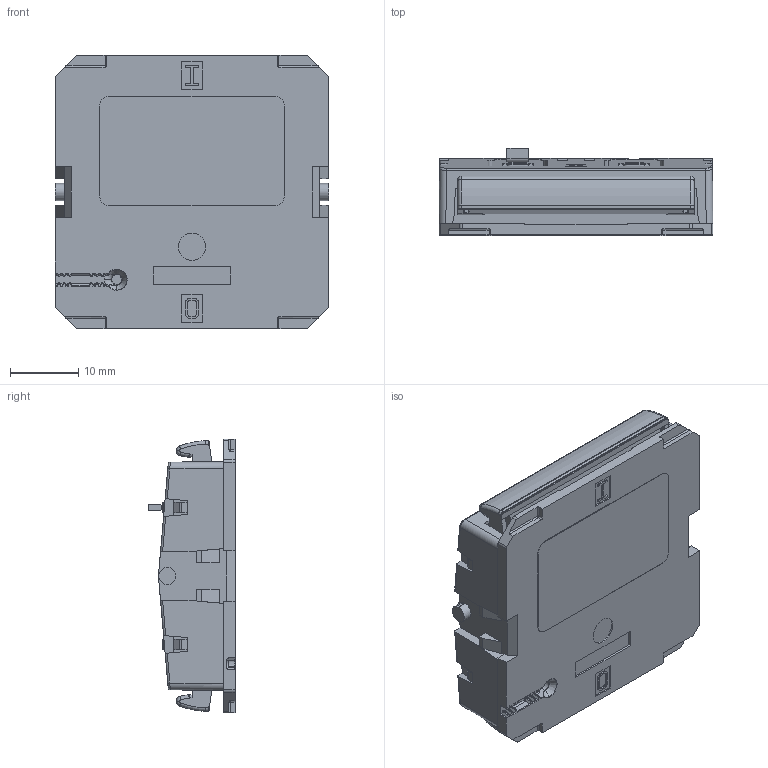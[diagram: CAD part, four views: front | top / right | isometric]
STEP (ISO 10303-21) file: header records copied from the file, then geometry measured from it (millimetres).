
FILE_DESCRIPTION (( 'STEP AP203' ), '1' );
FILE_NAME ('EinbauanweisungPTM210-Schaltsteg-nicht-gedrückt _14-04-2020.STEP', '2020-04-20T18:52:54', ( '' ), ( '' ), 'SwSTEP 2.0', 'SolidWorks 2014', '' );
FILE_SCHEMA (( 'CONFIG_CONTROL_DESIGN' ));
Length unit declared in the file: millimetre
Products named in the file (3): EinbauanweisungSchaltsteg_nicht-gedrückt; EinbauanweisungPTM210-Schaltsteg-nicht-gedrückt _14-04-2020; PTM210_1_Block
Assembly tree (2 placements, depth 2):
  EinbauanweisungPTM210-Schaltsteg-nicht-gedrückt _14-04-2020
    EinbauanweisungSchaltsteg_nicht-gedrückt
    PTM210_1_Block
Bounding box: 40 x 12.8 x 40 mm (x, y, z)
Volume: 13767.4 mm3; surface area: 8464.6 mm2
Topology: 3 solids, 3 shells, 1073 faces, 2872 edges, 1821 vertices
Faces by surface type: plane 539, cylinder 386, bspline 73, torus 38, cone 23, sphere 14
Entity records: 36177 total; most frequent: CARTESIAN_POINT 10241, ORIENTED_EDGE 5708, DIRECTION 4874, EDGE_CURVE 2854, VECTOR 1832, LINE 1832, VERTEX_POINT 1821, AXIS2_PLACEMENT_3D 1521
